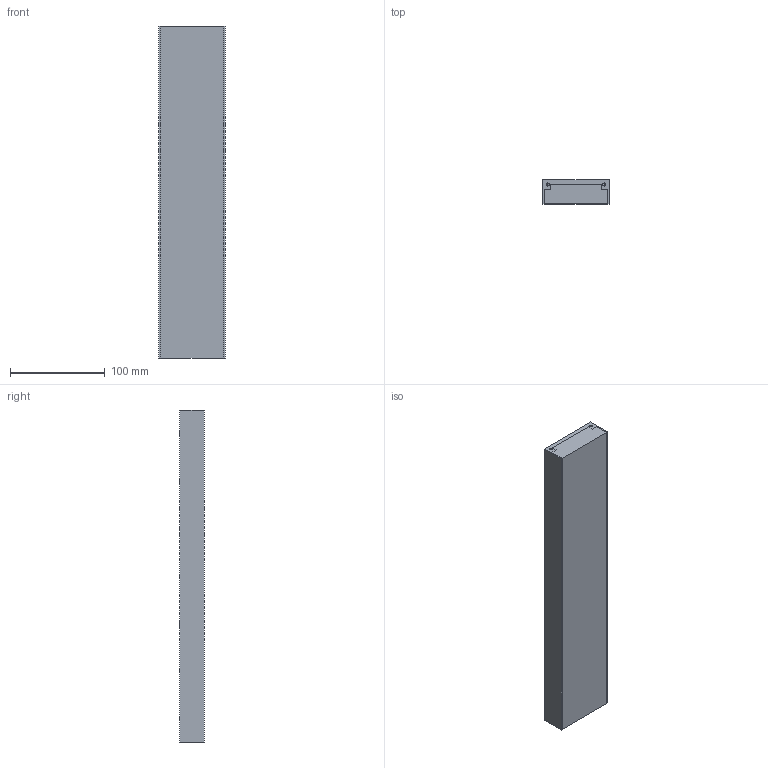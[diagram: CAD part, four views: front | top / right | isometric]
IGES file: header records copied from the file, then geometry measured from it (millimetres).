
Global section: file name: No Iges File Name specified; native system: AutoDesk Inventor R12.0; preprocessor: AutoDesk Inventor Iges Exporter R12.0; date: 20081121.152152; units: inch
Bounding box: 70 x 25.4 x 350 mm (x, y, z)
Volume: 618523.4 mm3; surface area: 73709.6 mm2
Topology: 1 solids, 1 shells, 116 faces, 282 edges, 158 vertices
Faces by surface type: bspline 72, plane 28, cylinder 16
